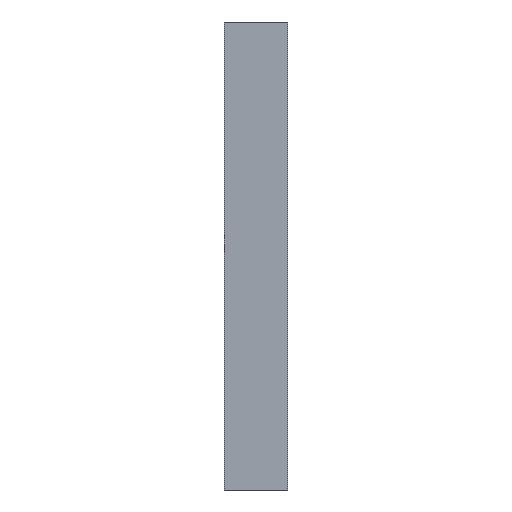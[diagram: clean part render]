
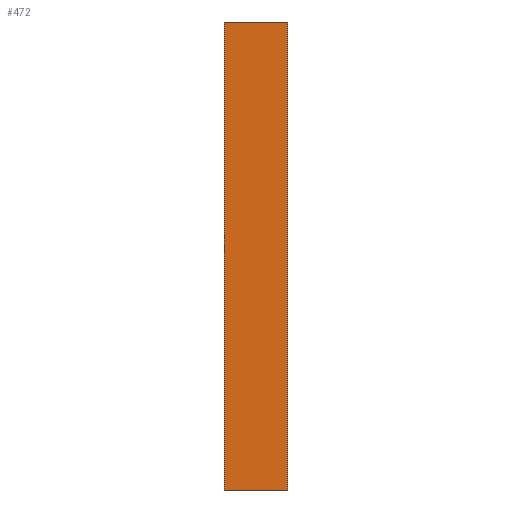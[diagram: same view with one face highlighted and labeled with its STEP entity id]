
A CAD part, front view. The second image highlights one B-rep face of the part: STEP entity #472.
In plain terms, the highlighted planar face has unit normal (0, -1, 0).
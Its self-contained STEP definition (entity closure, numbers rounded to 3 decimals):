
#22 = VERTEX_POINT('',#23);
#23 = CARTESIAN_POINT('',(-90.,-105.,43.));
#31 = EDGE_CURVE('',#32,#22,#34,.T.);
#32 = VERTEX_POINT('',#33);
#33 = CARTESIAN_POINT('',(-90.,-105.,21.));
#34 = LINE('',#35,#36);
#35 = CARTESIAN_POINT('',(-90.,-105.,21.));
#36 = VECTOR('',#37,1.);
#37 = DIRECTION('',(0.,0.,1.));
#300 = EDGE_CURVE('',#22,#301,#303,.T.);
#301 = VERTEX_POINT('',#302);
#302 = CARTESIAN_POINT('',(-87.,-105.,43.));
#303 = LINE('',#304,#305);
#304 = CARTESIAN_POINT('',(-90.,-105.,43.));
#305 = VECTOR('',#306,1.);
#306 = DIRECTION('',(1.,0.,0.));
#453 = EDGE_CURVE('',#32,#454,#456,.T.);
#454 = VERTEX_POINT('',#455);
#455 = CARTESIAN_POINT('',(-87.,-105.,21.));
#456 = LINE('',#457,#458);
#457 = CARTESIAN_POINT('',(-90.,-105.,21.));
#458 = VECTOR('',#459,1.);
#459 = DIRECTION('',(1.,0.,0.));
#472 = ADVANCED_FACE('',(#473),#484,.F.);
#473 = FACE_BOUND('',#474,.F.);
#474 = EDGE_LOOP('',(#475,#476,#477,#478));
#475 = ORIENTED_EDGE('',*,*,#453,.F.);
#476 = ORIENTED_EDGE('',*,*,#31,.T.);
#477 = ORIENTED_EDGE('',*,*,#300,.T.);
#478 = ORIENTED_EDGE('',*,*,#479,.F.);
#479 = EDGE_CURVE('',#454,#301,#480,.T.);
#480 = LINE('',#481,#482);
#481 = CARTESIAN_POINT('',(-87.,-105.,21.));
#482 = VECTOR('',#483,1.);
#483 = DIRECTION('',(0.,0.,1.));
#484 = PLANE('',#485);
#485 = AXIS2_PLACEMENT_3D('',#486,#487,#488);
#486 = CARTESIAN_POINT('',(-90.,-105.,21.));
#487 = DIRECTION('',(0.,1.,0.));
#488 = DIRECTION('',(0.,0.,1.));
